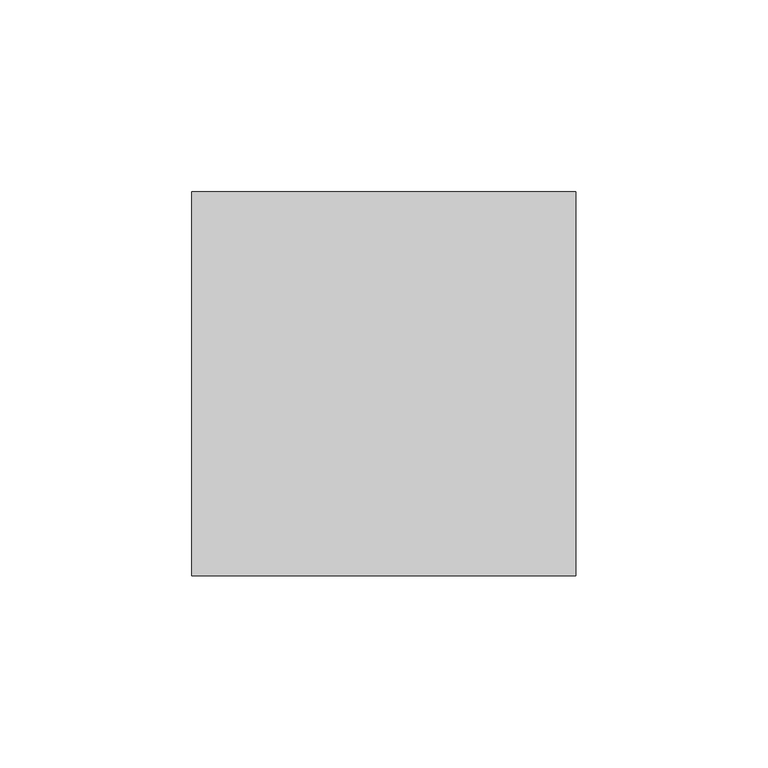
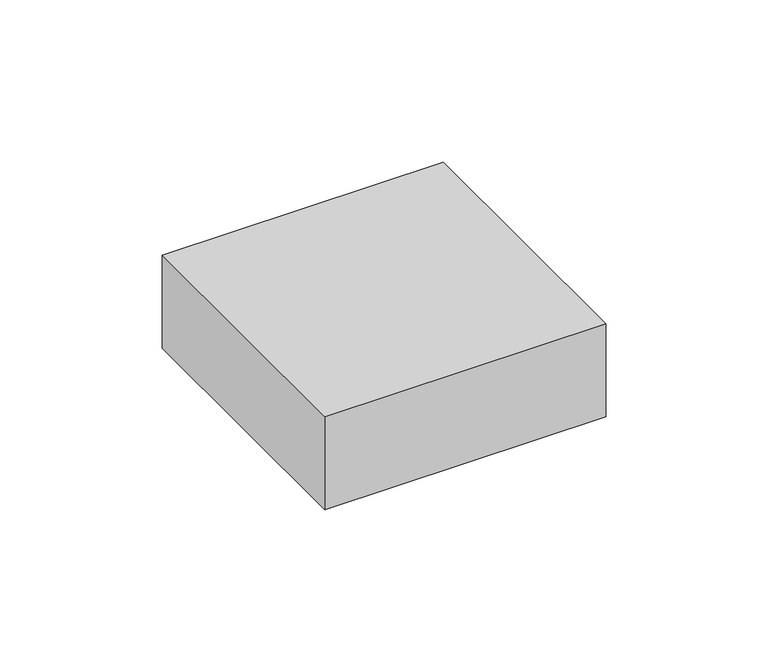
"""IFC4 building model written with IfcOpenShell, lengths in millimetres: furniture geometry, Pixel_Multiple : Pixel_Multiple."""

from ifc_helpers import new_model, si_unit, origin, origin_with_axes, place, context, project, spatial, polyline, outline, extrude, source, transform, mapped, element, save


def furniture_94353657(model_context):
    return source(origin(), model_context, "Body", "SweptSolid", [
        extrude(outline(polyline([(100.0, 0.0), (0.0, 0.0), (0.0, 100.0), (100.0, 100.0), (100.0, 0.0)])), origin_with_axes(), (0.0, 0.0, 1.0), 35.0),
    ])


if __name__ == "__main__":
    model = new_model("IFC4")
    model_context = context("Model", 3, world=origin())
    ifc_project = project(units=[si_unit("LENGTHUNIT", "METRE", prefix="MILLI")], contexts=[model_context])
    site = spatial("IfcSite", under=ifc_project)
    building = spatial("IfcBuilding", under=site)
    placement = place(None, origin())
    furniture_shape = furniture_94353657(model_context)
    element("IfcFurniture", 1, ObjectType="Pixel_Multiple : Pixel_Multiple", at=placement, inside=building, context=model_context, shape_type="MappedRepresentation", body=[
        mapped(furniture_shape, transform((0.0, 0.0, 0.0), x_axis=(1.0, 0.0, 0.0), y_axis=(0.0, 1.0, 0.0), z_axis=(0.0, 0.0, 1.0))),
    ])
    save(model, "model.ifc")
